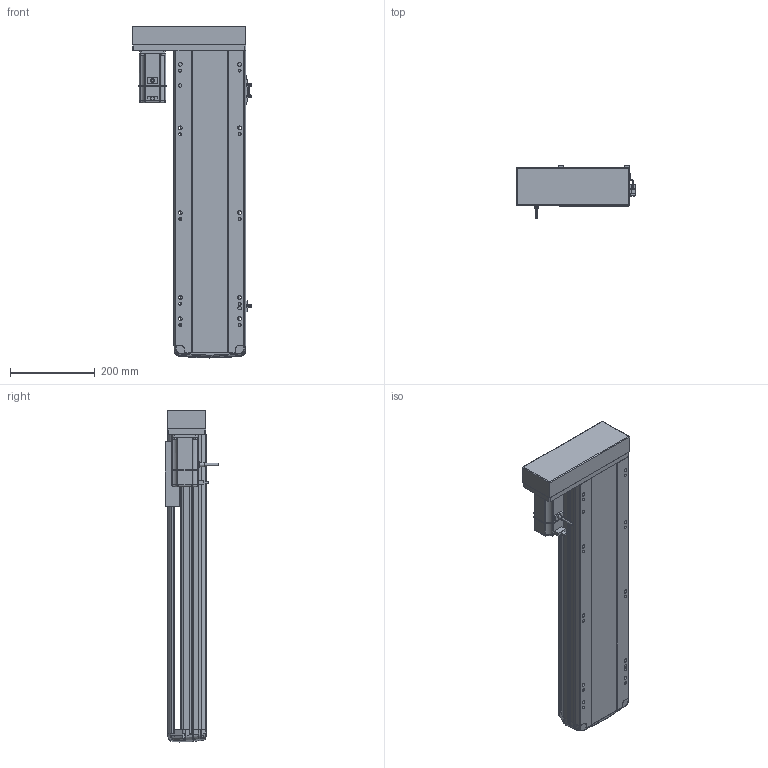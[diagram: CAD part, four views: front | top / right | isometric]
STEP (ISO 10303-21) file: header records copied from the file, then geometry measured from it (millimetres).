
FILE_DESCRIPTION (( 'STEP AP214' ), '1' );
FILE_NAME ('RTH17-XX-500-R-M40-C4.STEP', '2025-10-24T08:55:18', ( '' ), ( '' ), 'SwSTEP 2.0', 'SolidWorks 2018', '' );
FILE_SCHEMA (( 'AUTOMOTIVE_DESIGN' ));
Length unit declared in the file: millimetre
Products named in the file (10): N_M40^RTH17-XX-XX-R-M40-C4（方程式）; N_OMRON EE-SX672 換覜ん^RTH17-XX-XX-R-M40-C4ㄗ源最宒ㄘ; N_RTH17-M-007上盖^RTH17-XX-XX-R-M40-C4（方程式）; N_RTH17-M-011底座^RTH17-XX-XX-R-M40-C4（方程式）; RTH17-XX-500-R-M40-C4; N_RTH17-L-018盖子^RTH17-XX-XX-R-M40-C4（方程式）; N_RTH17-L-008-P40电机安装板左转折^RTH17-XX-XX-R-M40-C4（方程式）; N_RTH17-E-004丝杆螺母连接座^RTH17-XX-XX-R-M40-C4（方程式）; N_RTH17-GY-001P^RTH17-XX-XX-R-M40-C4（方程式）; N_RTH-BL-012 感应片(外置)^RTH17-XX-XX-R-M40-C4（方程式）
Assembly tree (11 placements, depth 2):
  RTH17-XX-500-R-M40-C4
    N_RTH17-M-011底座^RTH17-XX-XX-R-M40-C4（方程式）
    N_RTH17-M-007上盖^RTH17-XX-XX-R-M40-C4（方程式）
    N_M40^RTH17-XX-XX-R-M40-C4（方程式）
    N_OMRON EE-SX672 換覜ん^RTH17-XX-XX-R-M40-C4ㄗ源最宒ㄘ  x3
    N_RTH-BL-012 感应片(外置)^RTH17-XX-XX-R-M40-C4（方程式）
    N_RTH17-L-008-P40电机安装板左转折^RTH17-XX-XX-R-M40-C4（方程式）
    N_RTH17-L-018盖子^RTH17-XX-XX-R-M40-C4（方程式）
    N_RTH17-E-004丝杆螺母连接座^RTH17-XX-XX-R-M40-C4（方程式）
    N_RTH17-GY-001P^RTH17-XX-XX-R-M40-C4（方程式）
Bounding box: 280.5 x 127 x 783.07 mm (x, y, z)
Volume: 7394389.6 mm3; surface area: 959016.8 mm2
Topology: 13 solids, 15 shells, 1647 faces, 4575 edges, 2982 vertices
Faces by surface type: plane 833, cylinder 447, bspline 330, cone 28, torus 9
Entity records: 47838 total; most frequent: CARTESIAN_POINT 19381, ORIENTED_EDGE 6174, DIRECTION 5089, EDGE_CURVE 3091, VERTEX_POINT 2018, LINE 1747, VECTOR 1747, AXIS2_PLACEMENT_3D 1671
